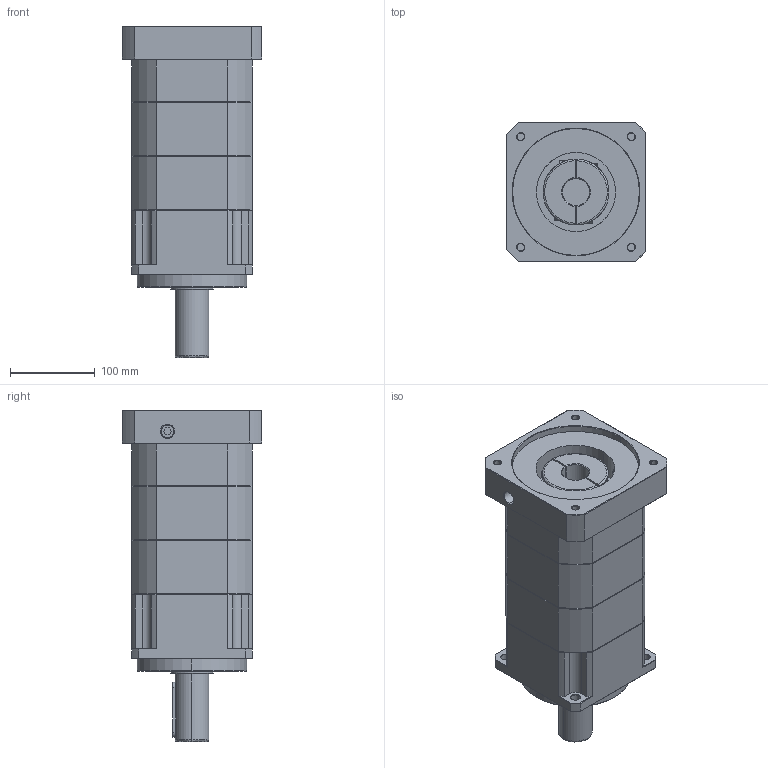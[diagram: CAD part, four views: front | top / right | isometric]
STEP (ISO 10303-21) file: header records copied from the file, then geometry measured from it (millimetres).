
FILE_DESCRIPTION (( 'STEP AP214' ), '1' );
FILE_NAME ('ZPB142-L3-P1-S2-32-150-185-M10.step', '2024-07-05T00:21:23', ( 'Windows 蚚誧' ), ( 'Organization' ), 'SwSTEP 2.0', 'SolidWorks 2016', '' );
FILE_SCHEMA (( 'AUTOMOTIVE_DESIGN' ));
Length unit declared in the file: millimetre
Products named in the file (1): ZPB142-L3-P1-S2-32-150-185-M10
Bounding box: 165 x 165 x 391.5 mm (x, y, z)
Surface area: 285495.4 mm2 (no closed solid volume)
Topology: 0 solids, 37 shells, 1818 faces, 4825 edges, 3082 vertices
Faces by surface type: plane 936, bspline 383, cone 280, cylinder 219
Full cylindrical faces by diameter (mm): 14 x1
Entity records: 101670 total; most frequent: CARTESIAN_POINT 50800, ORIENTED_EDGE 9625, DIRECTION 7423, EDGE_CURVE 4824, VECTOR 3179, LINE 3179, VERTEX_POINT 3082, AXIS2_PLACEMENT_3D 2122
